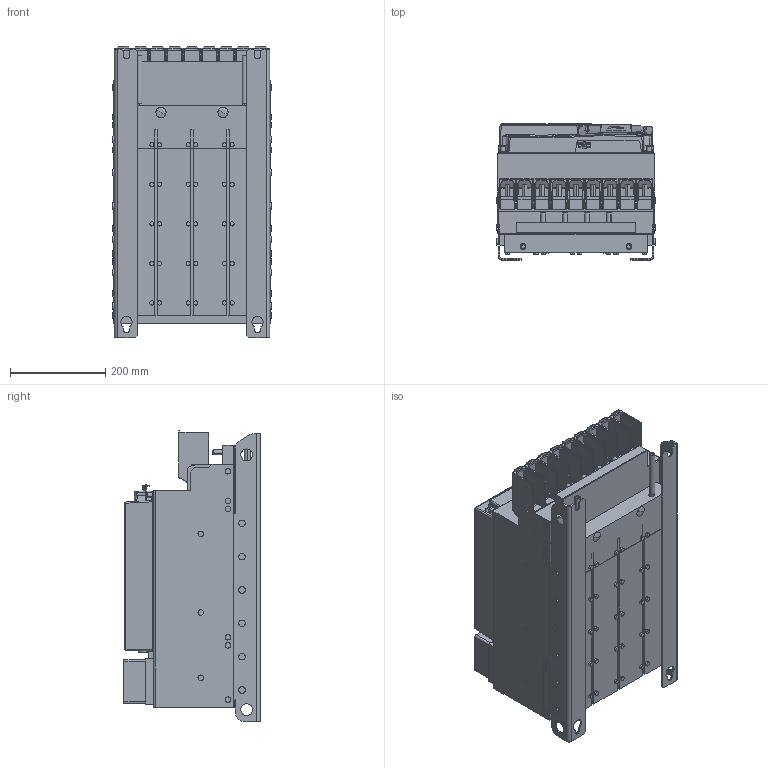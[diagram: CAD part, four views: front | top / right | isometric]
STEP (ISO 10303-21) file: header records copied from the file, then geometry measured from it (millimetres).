
FILE_DESCRIPTION (( 'STEP AP214' ), '1' );
FILE_NAME ('F6-7TW0-K001.STEP', '2021-02-26T13:52:18', ( '' ), ( '' ), 'SwSTEP 2.0', 'SolidWorks 2019', '' );
FILE_SCHEMA (( 'AUTOMOTIVE_DESIGN' ));
Length unit declared in the file: millimetre
Products named in the file (13): 10058413_000; 10061502_000_Deckel (Kundenmodell); F6-7TW0-K001; 10059764_000_Blindabdeckung (Kundenmodell); 10061503_000; 10045475_000_Geh„usebaugruppe F6-7 (Kundenmodell); 10060724_000_ Leistungsteil + BW F6-7 TW0 (Kundenmodell); 10035735_000_Kundenmodell; 10061522_000; 10059765_000; 10061504_000_Gehеsebaugruppe ohne L’terkarte; 10061630_000; 10043622_000_70F6 Klemme (Kundenmodell)
Assembly tree (12 placements, depth 4):
  F6-7TW0-K001
    10060724_000_ Leistungsteil + BW F6-7 TW0 (Kundenmodell)
      10043622_000_70F6 Klemme (Kundenmodell)
        10061522_000
      10061630_000
    10045475_000_Geh„usebaugruppe F6-7 (Kundenmodell)
      10061502_000_Deckel (Kundenmodell)
        10061503_000
      10061504_000_Gehеsebaugruppe ohne L’terkarte
    10035735_000_Kundenmodell
      10059764_000_Blindabdeckung (Kundenmodell)
        10059765_000
      10058413_000
Bounding box: 335.4 x 285.9 x 611.76 mm (x, y, z)
Volume: 42355334.5 mm3; surface area: 2194282.3 mm2
Topology: 12 solids, 12 shells, 3167 faces, 8035 edges, 4944 vertices
Faces by surface type: plane 1610, cylinder 986, bspline 268, sphere 176, torus 73, cone 54
Entity records: 101838 total; most frequent: CARTESIAN_POINT 27476, ORIENTED_EDGE 15848, DIRECTION 14705, EDGE_CURVE 7924, LINE 5023, VECTOR 5023, VERTEX_POINT 4941, AXIS2_PLACEMENT_3D 4841
